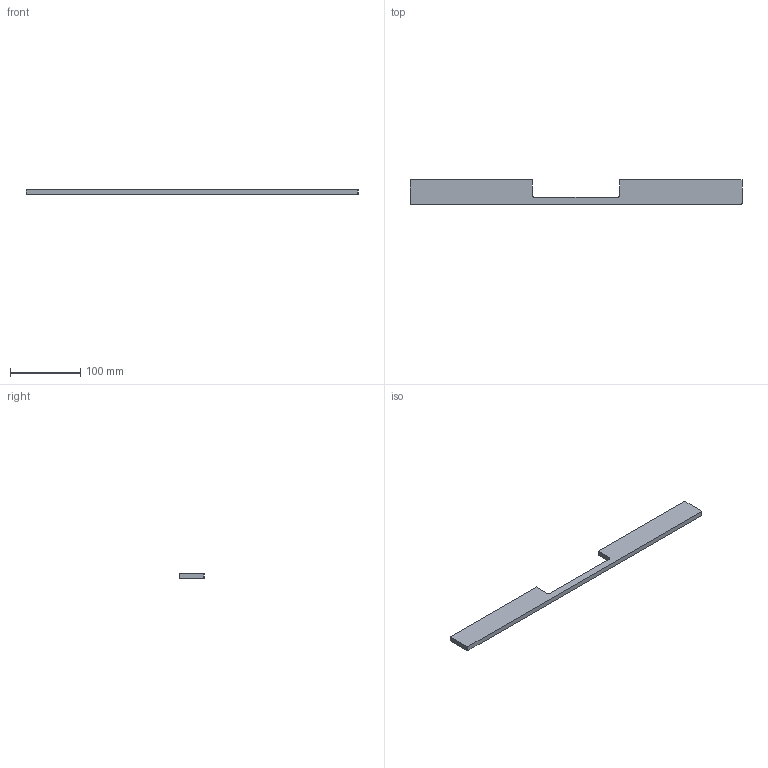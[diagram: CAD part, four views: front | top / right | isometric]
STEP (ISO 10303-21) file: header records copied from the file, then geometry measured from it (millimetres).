
FILE_DESCRIPTION( ( '' ), '1' );
FILE_NAME( 'C:/Documents and Settings/Nikhil/Desktop/Nik/Done/115016.stp', '2013-10-24T06:15:57', ( '' ), ( '' ), ' ', ' ', ' ' );
FILE_SCHEMA( ( 'automotive_design' ) );
Length unit declared in the file: millimetre
Products named in the file (1): 1
Bounding box: 472 x 35 x 7 mm (x, y, z)
Volume: 93609 mm3; surface area: 34421.9 mm2
Topology: 1 solids, 1 shells, 20 faces, 48 edges, 32 vertices
Faces by surface type: plane 12, cylinder 8
Entity records: 1172 total; most frequent: DIRECTION 106, STYLED_ITEM 101, PRESENTATION_STYLE_ASSIGNMENT 101, CARTESIAN_POINT 101, COLOUR_RGB 101, ORIENTED_EDGE 96, EDGE_CURVE 48, CURVE_STYLE 48
